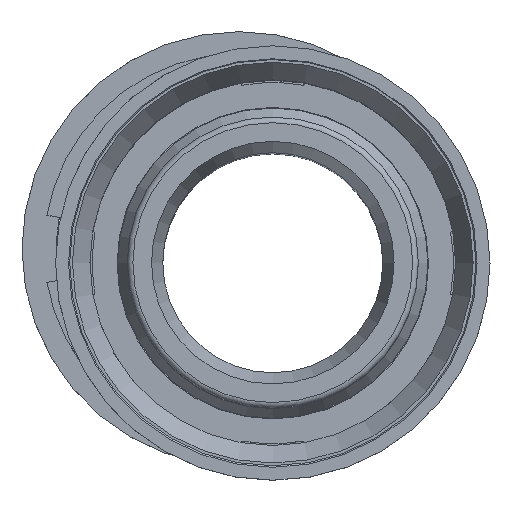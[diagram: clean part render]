
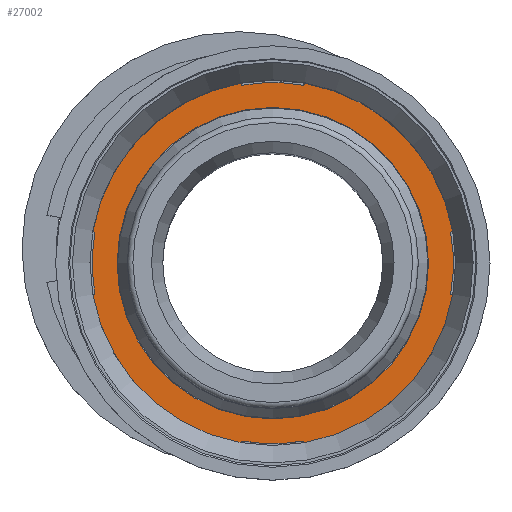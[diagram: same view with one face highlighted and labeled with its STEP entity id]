
A CAD part, top view. The second image highlights one B-rep face of the part: STEP entity #27002.
In plain terms, the highlighted planar face has unit normal (0, 0, 1) as drawn and (0, 0, -1) by its records, which use the part's own axes.
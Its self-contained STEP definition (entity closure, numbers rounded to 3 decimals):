
#143=FACE_BOUND('',#6789,.T.);
#341=PLANE('',#28603);
#1059=LINE('',#44311,#2656);
#1062=LINE('',#44322,#2659);
#1069=LINE('',#44337,#2666);
#1075=LINE('',#44353,#2672);
#1081=LINE('',#44366,#2678);
#1087=LINE('',#44379,#2684);
#1093=LINE('',#44395,#2690);
#1099=LINE('',#44411,#2696);
#2656=VECTOR('',#30711,10.);
#2659=VECTOR('',#30722,10.);
#2666=VECTOR('',#30731,10.);
#2672=VECTOR('',#30745,10.);
#2678=VECTOR('',#30753,10.);
#2684=VECTOR('',#30761,10.);
#2690=VECTOR('',#30775,10.);
#2696=VECTOR('',#30789,10.);
#5245=FACE_OUTER_BOUND('',#6788,.T.);
#6788=EDGE_LOOP('',(#20468,#20469,#20470,#20471,#20472,#20473,#20474,#20475,
#20476,#20477,#20478,#20479,#20480,#20481,#20482,#20483));
#6789=EDGE_LOOP('',(#20484,#20485));
#8085=CIRCLE('',#28531,16.);
#8087=CIRCLE('',#28536,16.);
#8089=CIRCLE('',#28542,16.);
#8091=CIRCLE('',#28546,16.);
#8108=CIRCLE('',#28570,16.2);
#8109=CIRCLE('',#28571,16.2);
#8110=CIRCLE('',#28572,16.2);
#8113=CIRCLE('',#28575,16.2);
#8130=CIRCLE('',#28601,13.8);
#8131=CIRCLE('',#28602,13.8);
#11374=VERTEX_POINT('',#44301);
#11378=VERTEX_POINT('',#44309);
#11379=VERTEX_POINT('',#44313);
#11381=VERTEX_POINT('',#44319);
#11388=VERTEX_POINT('',#44334);
#11389=VERTEX_POINT('',#44336);
#11391=VERTEX_POINT('',#44342);
#11395=VERTEX_POINT('',#44352);
#11400=VERTEX_POINT('',#44363);
#11401=VERTEX_POINT('',#44365);
#11406=VERTEX_POINT('',#44376);
#11407=VERTEX_POINT('',#44378);
#11412=VERTEX_POINT('',#44392);
#11413=VERTEX_POINT('',#44394);
#11415=VERTEX_POINT('',#44400);
#11419=VERTEX_POINT('',#44410);
#11442=VERTEX_POINT('',#44494);
#11443=VERTEX_POINT('',#44496);
#14659=EDGE_CURVE('',#11374,#11378,#1059,.T.);
#14660=EDGE_CURVE('',#11378,#11379,#8085,.T.);
#14664=EDGE_CURVE('',#11379,#11381,#1062,.T.);
#14671=EDGE_CURVE('',#11389,#11388,#1069,.T.);
#14674=EDGE_CURVE('',#11391,#11389,#8087,.T.);
#14679=EDGE_CURVE('',#11395,#11391,#1075,.T.);
#14685=EDGE_CURVE('',#11401,#11400,#1081,.T.);
#14691=EDGE_CURVE('',#11407,#11406,#1087,.T.);
#14694=EDGE_CURVE('',#11400,#11407,#8089,.T.);
#14699=EDGE_CURVE('',#11413,#11412,#1093,.T.);
#14702=EDGE_CURVE('',#11415,#11413,#8091,.T.);
#14707=EDGE_CURVE('',#11419,#11415,#1099,.T.);
#14725=EDGE_CURVE('',#11374,#11388,#8108,.T.);
#14726=EDGE_CURVE('',#11395,#11412,#8109,.T.);
#14727=EDGE_CURVE('',#11419,#11406,#8110,.T.);
#14731=EDGE_CURVE('',#11401,#11381,#8113,.T.);
#14754=EDGE_CURVE('',#11443,#11442,#8130,.T.);
#14755=EDGE_CURVE('',#11442,#11443,#8131,.T.);
#20468=ORIENTED_EDGE('',*,*,#14664,.T.);
#20469=ORIENTED_EDGE('',*,*,#14731,.F.);
#20470=ORIENTED_EDGE('',*,*,#14685,.T.);
#20471=ORIENTED_EDGE('',*,*,#14694,.T.);
#20472=ORIENTED_EDGE('',*,*,#14691,.T.);
#20473=ORIENTED_EDGE('',*,*,#14727,.F.);
#20474=ORIENTED_EDGE('',*,*,#14707,.T.);
#20475=ORIENTED_EDGE('',*,*,#14702,.T.);
#20476=ORIENTED_EDGE('',*,*,#14699,.T.);
#20477=ORIENTED_EDGE('',*,*,#14726,.F.);
#20478=ORIENTED_EDGE('',*,*,#14679,.T.);
#20479=ORIENTED_EDGE('',*,*,#14674,.T.);
#20480=ORIENTED_EDGE('',*,*,#14671,.T.);
#20481=ORIENTED_EDGE('',*,*,#14725,.F.);
#20482=ORIENTED_EDGE('',*,*,#14659,.T.);
#20483=ORIENTED_EDGE('',*,*,#14660,.T.);
#20484=ORIENTED_EDGE('',*,*,#14754,.T.);
#20485=ORIENTED_EDGE('',*,*,#14755,.T.);
#27002=ADVANCED_FACE('',(#5245,#143),#341,.T.);
#28531=AXIS2_PLACEMENT_3D('',#44314,#30714,#30715);
#28536=AXIS2_PLACEMENT_3D('',#44343,#30736,#30737);
#28542=AXIS2_PLACEMENT_3D('',#44384,#30766,#30767);
#28546=AXIS2_PLACEMENT_3D('',#44401,#30780,#30781);
#28570=AXIS2_PLACEMENT_3D('',#44439,#30834,#30835);
#28571=AXIS2_PLACEMENT_3D('',#44440,#30836,#30837);
#28572=AXIS2_PLACEMENT_3D('',#44441,#30838,#30839);
#28575=AXIS2_PLACEMENT_3D('',#44447,#30845,#30846);
#28601=AXIS2_PLACEMENT_3D('',#44497,#30903,#30904);
#28602=AXIS2_PLACEMENT_3D('',#44498,#30905,#30906);
#28603=AXIS2_PLACEMENT_3D('',#44499,#30907,#30908);
#30711=DIRECTION('',(0.985,0.174,0.));
#30714=DIRECTION('center_axis',(0.,0.,-1.));
#30715=DIRECTION('ref_axis',(0.985,-0.172,0.));
#30722=DIRECTION('',(-0.985,0.174,0.));
#30731=DIRECTION('',(-0.174,-0.985,0.));
#30736=DIRECTION('center_axis',(0.,0.,-1.));
#30737=DIRECTION('ref_axis',(0.172,0.985,0.));
#30745=DIRECTION('',(-0.174,0.985,0.));
#30753=DIRECTION('',(0.174,-0.985,0.));
#30761=DIRECTION('',(0.174,0.985,0.));
#30766=DIRECTION('center_axis',(0.,0.,-1.));
#30767=DIRECTION('ref_axis',(-0.172,-0.985,0.));
#30775=DIRECTION('',(0.985,-0.174,0.));
#30780=DIRECTION('center_axis',(0.,0.,-1.));
#30781=DIRECTION('ref_axis',(-0.985,0.172,0.));
#30789=DIRECTION('',(-0.985,-0.174,0.));
#30834=DIRECTION('center_axis',(0.,0.,1.));
#30835=DIRECTION('ref_axis',(1.,0.,0.));
#30836=DIRECTION('center_axis',(0.,0.,1.));
#30837=DIRECTION('ref_axis',(1.,0.,0.));
#30838=DIRECTION('center_axis',(0.,0.,1.));
#30839=DIRECTION('ref_axis',(1.,0.,0.));
#30845=DIRECTION('center_axis',(0.,0.,1.));
#30846=DIRECTION('ref_axis',(1.,0.,0.));
#30903=DIRECTION('center_axis',(0.,0.,1.));
#30904=DIRECTION('ref_axis',(1.,0.,0.));
#30905=DIRECTION('center_axis',(0.,0.,1.));
#30906=DIRECTION('ref_axis',(1.,0.,0.));
#30907=DIRECTION('center_axis',(0.,0.,-1.));
#30908=DIRECTION('ref_axis',(-1.,0.,0.));
#44301=CARTESIAN_POINT('',(-15.959,-2.785,6.519));
#44309=CARTESIAN_POINT('',(-15.762,-2.75,6.519));
#44311=CARTESIAN_POINT('',(-9.269,-1.605,6.519));
#44313=CARTESIAN_POINT('',(-15.762,2.75,6.519));
#44314=CARTESIAN_POINT('Origin',(0.,0.,6.519));
#44319=CARTESIAN_POINT('',(-15.959,2.785,6.519));
#44322=CARTESIAN_POINT('',(-10.235,1.776,6.519));
#44334=CARTESIAN_POINT('',(-2.785,-15.959,6.519));
#44336=CARTESIAN_POINT('',(-2.75,-15.762,6.519));
#44337=CARTESIAN_POINT('',(-3.405,-19.476,6.519));
#44342=CARTESIAN_POINT('',(2.75,-15.762,6.519));
#44343=CARTESIAN_POINT('Origin',(0.,0.,6.519));
#44352=CARTESIAN_POINT('',(2.785,-15.959,6.519));
#44353=CARTESIAN_POINT('',(2.746,-15.739,6.519));
#44363=CARTESIAN_POINT('',(-2.75,15.762,6.519));
#44365=CARTESIAN_POINT('',(-2.785,15.959,6.519));
#44366=CARTESIAN_POINT('',(0.024,0.028,6.519));
#44376=CARTESIAN_POINT('',(2.785,15.959,6.519));
#44378=CARTESIAN_POINT('',(2.75,15.762,6.519));
#44379=CARTESIAN_POINT('',(0.635,3.765,6.519));
#44384=CARTESIAN_POINT('Origin',(0.,0.,6.519));
#44392=CARTESIAN_POINT('',(15.959,-2.785,6.519));
#44394=CARTESIAN_POINT('',(15.762,-2.75,6.519));
#44395=CARTESIAN_POINT('',(13.006,-2.264,6.519));
#44400=CARTESIAN_POINT('',(15.762,2.75,6.519));
#44401=CARTESIAN_POINT('Origin',(0.,0.,6.519));
#44410=CARTESIAN_POINT('',(15.959,2.785,6.519));
#44411=CARTESIAN_POINT('',(6.498,1.117,6.519));
#44439=CARTESIAN_POINT('Origin',(0.,0.,6.519));
#44440=CARTESIAN_POINT('Origin',(0.,0.,6.519));
#44441=CARTESIAN_POINT('Origin',(0.,0.,6.519));
#44447=CARTESIAN_POINT('Origin',(0.,0.,6.519));
#44494=CARTESIAN_POINT('',(0.,13.8,6.519));
#44496=CARTESIAN_POINT('',(0.,-13.8,6.519));
#44497=CARTESIAN_POINT('Origin',(0.,0.,6.519));
#44498=CARTESIAN_POINT('Origin',(0.,0.,6.519));
#44499=CARTESIAN_POINT('Origin',(0.,-16.2,6.519));
